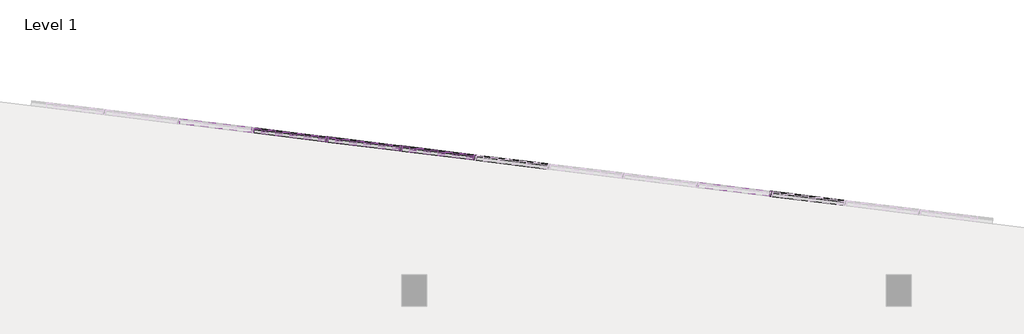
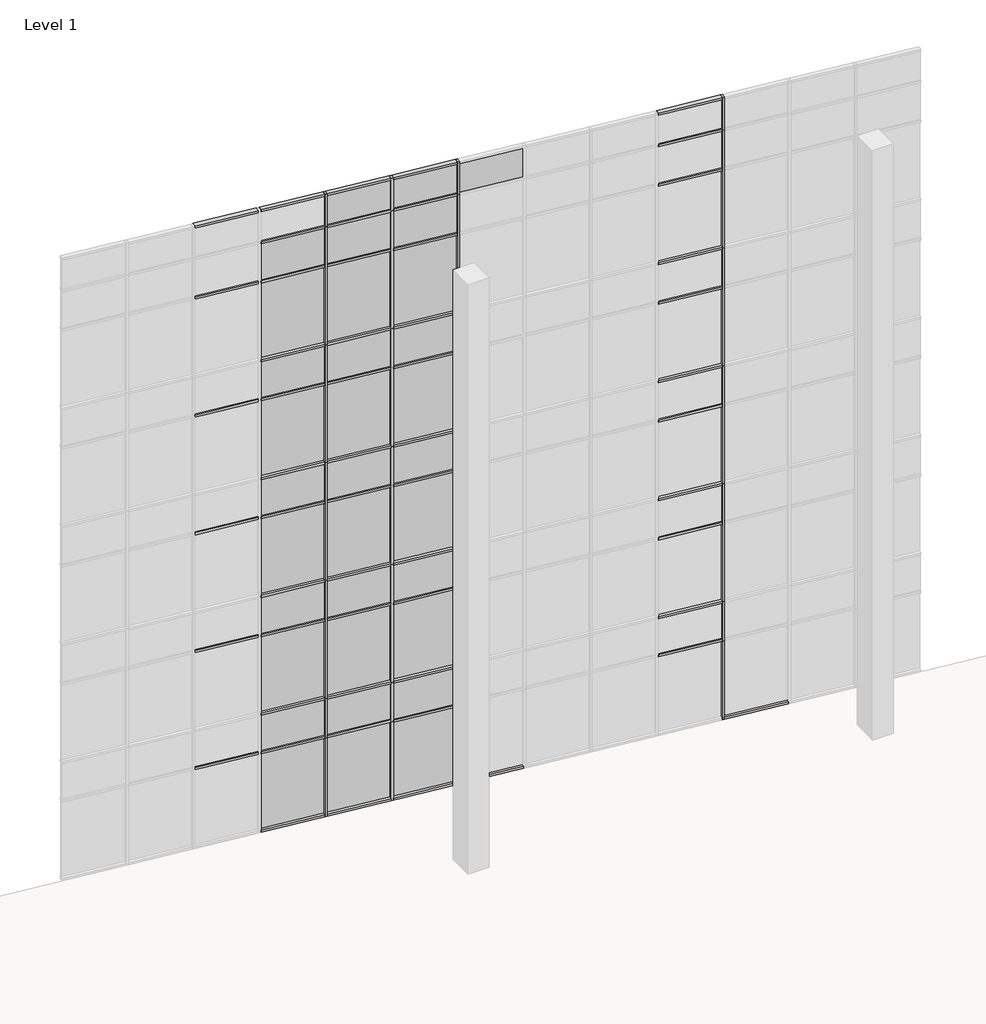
# One storey, part 18 of 23: 83 members, 33 plates.
"""IFC4 building model written with IfcOpenShell, lengths in millimetres."""

from ifc_helpers import new_model, si_unit, origin, place, context, project, spatial, transform, mapped, element, save
from components import member_2b49869a, member_f92b8aa2, member_810865a4, member_f0fea5a5, member_6d5c3e5e, member_9764dd38, system_panel_glazed_14c75400, system_panel_glazed_5b519c5a, system_panel_solid_5dfe6f83, system_panel_solid_e25e2004, system_panel_solid_b7551183

model = new_model("IFC4")

# Units and contexts
model_context = context("Model", 3, world=origin())
ifc_project = project(units=[si_unit("LENGTHUNIT", "METRE", prefix="MILLI")], contexts=[model_context])

# Site, building, storey
site = spatial("IfcSite", under=ifc_project)
building = spatial("IfcBuilding", under=site)
storey = spatial("IfcBuildingStorey", under=building, Name="Level 1", Elevation=0.0)

# Members
placement = place(None, origin())
member_shape = member_2b49869a(model_context)
element("IfcMember", 1, ObjectType="Rectangular Mullion : 2.5\" x 5\" rectangular", at=placement, inside=storey, context=model_context, shape_type="MappedRepresentation", body=[
    mapped(member_shape, transform((-11146.0047635, 13239.9184774, 2438.4), x_axis=(0.9925461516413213, -0.12186934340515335, 0.0), y_axis=(-0.12186934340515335, -0.9925461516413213, 0.0), z_axis=(0.0, 0.0, -1.0))),
])
element("IfcMember", 2, ObjectType="Rectangular Mullion : 2.5\" x 5\" rectangular", at=placement, inside=storey, context=model_context, shape_type="MappedRepresentation", body=[
    mapped(member_shape, transform((-254.9943507, 11902.6705461, 2438.4), x_axis=(0.9925461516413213, -0.12186934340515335, 0.0), y_axis=(-0.12186934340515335, -0.9925461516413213, 0.0), z_axis=(0.0, 0.0, -1.0))),
])
member_2_shape = member_f92b8aa2(model_context)
element("IfcMember", 3, ObjectType="Rectangular Mullion : 2.5\" x 5\" rectangular", at=placement, inside=storey, context=model_context, shape_type="MappedRepresentation", body=[
    mapped(member_2_shape, transform((-7515.6679592, 12794.169167, 18288.0), x_axis=(0.9925461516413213, -0.12186934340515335, 0.0), y_axis=(-0.12186934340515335, -0.9925461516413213, 0.0), z_axis=(0.0, 0.0, -1.0))),
])
element("IfcMember", 4, ObjectType="Rectangular Mullion : 2.5\" x 5\" rectangular", at=placement, inside=storey, context=model_context, shape_type="MappedRepresentation", body=[
    mapped(member_2_shape, transform((-9330.8363614, 13017.0438222, 18288.0), x_axis=(0.9925461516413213, -0.12186934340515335, 0.0), y_axis=(-0.12186934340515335, -0.9925461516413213, 0.0), z_axis=(0.0, 0.0, -1.0))),
])
element("IfcMember", 5, ObjectType="Rectangular Mullion : 2.5\" x 5\" rectangular", at=placement, inside=storey, context=model_context, shape_type="MappedRepresentation", body=[
    mapped(member_2_shape, transform((-11146.0047635, 13239.9184774, 18288.0), x_axis=(0.9925461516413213, -0.12186934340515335, 0.0), y_axis=(-0.12186934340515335, -0.9925461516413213, 0.0), z_axis=(0.0, 0.0, -1.0))),
])
element("IfcMember", 6, ObjectType="Rectangular Mullion : 2.5\" x 5\" rectangular", at=placement, inside=storey, context=model_context, shape_type="MappedRepresentation", body=[
    mapped(member_2_shape, transform((-254.9943507, 11902.6705461, 18288.0), x_axis=(0.9925461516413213, -0.12186934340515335, 0.0), y_axis=(-0.12186934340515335, -0.9925461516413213, 0.0), z_axis=(0.0, 0.0, -1.0))),
])
member_3_shape = member_810865a4(model_context)
element("IfcMember", 7, ObjectType="Rectangular Mullion : 2.5\" x 5\" rectangular", at=placement, inside=storey, context=model_context, shape_type="MappedRepresentation", body=[
    mapped(member_3_shape, transform((-11146.0047635, 13239.9184774, 3657.6), x_axis=(0.9925461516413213, -0.12186934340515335, 0.0), y_axis=(-0.12186934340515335, -0.9925461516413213, 0.0), z_axis=(0.0, 0.0, -1.0))),
])
element("IfcMember", 8, ObjectType="Rectangular Mullion : 2.5\" x 5\" rectangular", at=placement, inside=storey, context=model_context, shape_type="MappedRepresentation", body=[
    mapped(member_3_shape, transform((-7515.6679592, 12794.169167, 14630.4), x_axis=(0.9925461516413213, -0.12186934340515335, 0.0), y_axis=(-0.12186934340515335, -0.9925461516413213, 0.0), z_axis=(0.0, 0.0, -1.0))),
])
element("IfcMember", 9, ObjectType="Rectangular Mullion : 2.5\" x 5\" rectangular", at=placement, inside=storey, context=model_context, shape_type="MappedRepresentation", body=[
    mapped(member_3_shape, transform((-7515.6679592, 12794.169167, 10972.8), x_axis=(0.9925461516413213, -0.12186934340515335, 0.0), y_axis=(-0.12186934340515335, -0.9925461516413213, 0.0), z_axis=(0.0, 0.0, -1.0))),
])
element("IfcMember", 10, ObjectType="Rectangular Mullion : 2.5\" x 5\" rectangular", at=placement, inside=storey, context=model_context, shape_type="MappedRepresentation", body=[
    mapped(member_3_shape, transform((-7515.6679592, 12794.169167, 7315.2), x_axis=(0.9925461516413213, -0.12186934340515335, 0.0), y_axis=(-0.12186934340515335, -0.9925461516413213, 0.0), z_axis=(0.0, 0.0, -1.0))),
])
element("IfcMember", 11, ObjectType="Rectangular Mullion : 2.5\" x 5\" rectangular", at=placement, inside=storey, context=model_context, shape_type="MappedRepresentation", body=[
    mapped(member_3_shape, transform((-7515.6679592, 12794.169167, 3657.6), x_axis=(0.9925461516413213, -0.12186934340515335, 0.0), y_axis=(-0.12186934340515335, -0.9925461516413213, 0.0), z_axis=(0.0, 0.0, -1.0))),
])
element("IfcMember", 12, ObjectType="Rectangular Mullion : 2.5\" x 5\" rectangular", at=placement, inside=storey, context=model_context, shape_type="MappedRepresentation", body=[
    mapped(member_3_shape, transform((-9330.8363614, 13017.0438222, 14630.4), x_axis=(0.9925461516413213, -0.12186934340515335, 0.0), y_axis=(-0.12186934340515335, -0.9925461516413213, 0.0), z_axis=(0.0, 0.0, -1.0))),
])
element("IfcMember", 13, ObjectType="Rectangular Mullion : 2.5\" x 5\" rectangular", at=placement, inside=storey, context=model_context, shape_type="MappedRepresentation", body=[
    mapped(member_3_shape, transform((-9330.8363614, 13017.0438222, 10972.8), x_axis=(0.9925461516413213, -0.12186934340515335, 0.0), y_axis=(-0.12186934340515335, -0.9925461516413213, 0.0), z_axis=(0.0, 0.0, -1.0))),
])
element("IfcMember", 14, ObjectType="Rectangular Mullion : 2.5\" x 5\" rectangular", at=placement, inside=storey, context=model_context, shape_type="MappedRepresentation", body=[
    mapped(member_3_shape, transform((-9330.8363614, 13017.0438222, 7315.2), x_axis=(0.9925461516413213, -0.12186934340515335, 0.0), y_axis=(-0.12186934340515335, -0.9925461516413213, 0.0), z_axis=(0.0, 0.0, -1.0))),
])
element("IfcMember", 15, ObjectType="Rectangular Mullion : 2.5\" x 5\" rectangular", at=placement, inside=storey, context=model_context, shape_type="MappedRepresentation", body=[
    mapped(member_3_shape, transform((-9330.8363614, 13017.0438222, 3657.6), x_axis=(0.9925461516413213, -0.12186934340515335, 0.0), y_axis=(-0.12186934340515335, -0.9925461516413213, 0.0), z_axis=(0.0, 0.0, -1.0))),
])
element("IfcMember", 16, ObjectType="Rectangular Mullion : 2.5\" x 5\" rectangular", at=placement, inside=storey, context=model_context, shape_type="MappedRepresentation", body=[
    mapped(member_3_shape, transform((-11146.0047635, 13239.9184774, 14630.4), x_axis=(0.9925461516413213, -0.12186934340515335, 0.0), y_axis=(-0.12186934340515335, -0.9925461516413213, 0.0), z_axis=(0.0, 0.0, -1.0))),
])
element("IfcMember", 17, ObjectType="Rectangular Mullion : 2.5\" x 5\" rectangular", at=placement, inside=storey, context=model_context, shape_type="MappedRepresentation", body=[
    mapped(member_3_shape, transform((-11146.0047635, 13239.9184774, 10972.8), x_axis=(0.9925461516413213, -0.12186934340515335, 0.0), y_axis=(-0.12186934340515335, -0.9925461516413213, 0.0), z_axis=(0.0, 0.0, -1.0))),
])
element("IfcMember", 18, ObjectType="Rectangular Mullion : 2.5\" x 5\" rectangular", at=placement, inside=storey, context=model_context, shape_type="MappedRepresentation", body=[
    mapped(member_3_shape, transform((-11146.0047635, 13239.9184774, 7315.2), x_axis=(0.9925461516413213, -0.12186934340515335, 0.0), y_axis=(-0.12186934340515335, -0.9925461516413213, 0.0), z_axis=(0.0, 0.0, -1.0))),
])
element("IfcMember", 19, ObjectType="Rectangular Mullion : 2.5\" x 5\" rectangular", at=placement, inside=storey, context=model_context, shape_type="MappedRepresentation", body=[
    mapped(member_3_shape, transform((-254.9943507, 11902.6705461, 14630.4), x_axis=(0.9925461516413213, -0.12186934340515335, 0.0), y_axis=(-0.12186934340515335, -0.9925461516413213, 0.0), z_axis=(0.0, 0.0, -1.0))),
])
element("IfcMember", 20, ObjectType="Rectangular Mullion : 2.5\" x 5\" rectangular", at=placement, inside=storey, context=model_context, shape_type="MappedRepresentation", body=[
    mapped(member_3_shape, transform((-254.9943507, 11902.6705461, 10972.8), x_axis=(0.9925461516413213, -0.12186934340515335, 0.0), y_axis=(-0.12186934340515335, -0.9925461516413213, 0.0), z_axis=(0.0, 0.0, -1.0))),
])
element("IfcMember", 21, ObjectType="Rectangular Mullion : 2.5\" x 5\" rectangular", at=placement, inside=storey, context=model_context, shape_type="MappedRepresentation", body=[
    mapped(member_3_shape, transform((-254.9943507, 11902.6705461, 7315.2), x_axis=(0.9925461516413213, -0.12186934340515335, 0.0), y_axis=(-0.12186934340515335, -0.9925461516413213, 0.0), z_axis=(0.0, 0.0, -1.0))),
])
element("IfcMember", 22, ObjectType="Rectangular Mullion : 2.5\" x 5\" rectangular", at=placement, inside=storey, context=model_context, shape_type="MappedRepresentation", body=[
    mapped(member_3_shape, transform((-254.9943507, 11902.6705461, 3657.6), x_axis=(0.9925461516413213, -0.12186934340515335, 0.0), y_axis=(-0.12186934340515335, -0.9925461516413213, 0.0), z_axis=(0.0, 0.0, -1.0))),
])
member_4_shape = member_f0fea5a5(model_context)
element("IfcMember", 23, ObjectType="Rectangular Mullion : 2.5\" x 5\" rectangular", at=placement, inside=storey, context=model_context, shape_type="MappedRepresentation", body=[
    mapped(member_4_shape, transform((-11146.0047635, 13239.9184774, 0.0), x_axis=(0.9925461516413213, -0.12186934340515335, 0.0), y_axis=(-0.12186934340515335, -0.9925461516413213, 0.0), z_axis=(0.0, 0.0, -1.0))),
])
element("IfcMember", 24, ObjectType="Rectangular Mullion : 2.5\" x 5\" rectangular", at=placement, inside=storey, context=model_context, shape_type="MappedRepresentation", body=[
    mapped(member_4_shape, transform((-254.9943507, 11902.6705461, 0.0), x_axis=(0.9925461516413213, -0.12186934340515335, 0.0), y_axis=(-0.12186934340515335, -0.9925461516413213, 0.0), z_axis=(0.0, 0.0, -1.0))),
])
element("IfcMember", 25, ObjectType="Rectangular Mullion : 2.5\" x 5\" rectangular", at=placement, inside=storey, context=model_context, shape_type="MappedRepresentation", body=[
    mapped(member_4_shape, transform((-7515.6679592, 12794.169167, 0.0), x_axis=(0.9925461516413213, -0.12186934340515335, 0.0), y_axis=(-0.12186934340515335, -0.9925461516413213, 0.0), z_axis=(0.0, 0.0, -1.0))),
])
element("IfcMember", 26, ObjectType="Rectangular Mullion : 2.5\" x 5\" rectangular", at=placement, inside=storey, context=model_context, shape_type="MappedRepresentation", body=[
    mapped(member_4_shape, transform((-9330.8363614, 13017.0438222, 0.0), x_axis=(0.9925461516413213, -0.12186934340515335, 0.0), y_axis=(-0.12186934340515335, -0.9925461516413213, 0.0), z_axis=(0.0, 0.0, -1.0))),
])
element("IfcMember", 27, ObjectType="Rectangular Mullion : 2.5\" x 5\" rectangular", at=placement, inside=storey, context=model_context, shape_type="MappedRepresentation", body=[
    mapped(member_shape, transform((-7515.6679592, 12794.169167, 2438.4), x_axis=(0.9925461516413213, -0.12186934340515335, 0.0), y_axis=(-0.12186934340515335, -0.9925461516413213, 0.0), z_axis=(0.0, 0.0, -1.0))),
])
element("IfcMember", 28, ObjectType="Rectangular Mullion : 2.5\" x 5\" rectangular", at=placement, inside=storey, context=model_context, shape_type="MappedRepresentation", body=[
    mapped(member_shape, transform((-9330.8363614, 13017.0438222, 2438.4), x_axis=(0.9925461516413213, -0.12186934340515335, 0.0), y_axis=(-0.12186934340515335, -0.9925461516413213, 0.0), z_axis=(0.0, 0.0, -1.0))),
])
member_5_shape = member_6d5c3e5e(model_context)
element("IfcMember", 29, ObjectType="Rectangular Mullion : 2.5\" x 5\" rectangular", at=placement, inside=storey, context=model_context, shape_type="MappedRepresentation", body=[
    mapped(member_5_shape, transform((-9362.3497017, 13020.9131738, 19304.0), x_axis=(0.0, 0.0, 1.0), y_axis=(-0.12186934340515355, -0.9925461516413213, 0.0), z_axis=(0.9925461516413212, -0.12186934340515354, 0.0))),
])
element("IfcMember", 30, ObjectType="Rectangular Mullion : 2.5\" x 5\" rectangular", at=placement, inside=storey, context=model_context, shape_type="MappedRepresentation", body=[
    mapped(member_5_shape, transform((-11177.5181038, 13243.7878291, 19304.0), x_axis=(0.0, 0.0, 1.0), y_axis=(-0.12186934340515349, -0.9925461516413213, 0.0), z_axis=(0.9925461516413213, -0.12186934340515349, 0.0))),
])
element("IfcMember", 31, ObjectType="Rectangular Mullion : 2.5\" x 5\" rectangular", at=placement, inside=storey, context=model_context, shape_type="MappedRepresentation", body=[
    mapped(member_5_shape, transform((-12992.6865059, 13466.6624843, 19304.0), x_axis=(0.0, 0.0, 1.0), y_axis=(-0.12186934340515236, -0.9925461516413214, 0.0), z_axis=(0.9925461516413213, -0.12186934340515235, 0.0))),
])
element("IfcMember", 32, ObjectType="Rectangular Mullion : 2.5\" x 5\" rectangular", at=placement, inside=storey, context=model_context, shape_type="MappedRepresentation", body=[
    mapped(member_5_shape, transform((-286.5076911, 11906.5398977, 19304.0), x_axis=(0.0, 0.0, 1.0), y_axis=(-0.12186934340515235, -0.9925461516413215, 0.0), z_axis=(0.9925461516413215, -0.12186934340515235, 0.0))),
])
element("IfcMember", 33, ObjectType="Rectangular Mullion : 2.5\" x 5\" rectangular", at=placement, inside=storey, context=model_context, shape_type="MappedRepresentation", body=[
    mapped(member_5_shape, transform((-7547.1812995, 12798.0385186, 19304.0), x_axis=(0.0, 0.0, 1.0), y_axis=(-0.12186934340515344, -0.9925461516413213, 0.0), z_axis=(0.9925461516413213, -0.12186934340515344, 0.0))),
])
member_6_shape = member_9764dd38(model_context)
element("IfcMember", 34, ObjectType="Rectangular Mullion : 2.5\" x 5\" rectangular", at=placement, inside=storey, context=model_context, shape_type="MappedRepresentation", body=[
    mapped(member_6_shape, transform((-286.5076911, 11906.5398977, 17068.8), x_axis=(0.0, 0.0, 1.0), y_axis=(-0.12186934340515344, -0.9925461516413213, 0.0), z_axis=(0.9925461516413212, -0.12186934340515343, 0.0))),
])
element("IfcMember", 35, ObjectType="Rectangular Mullion : 2.5\" x 5\" rectangular", at=placement, inside=storey, context=model_context, shape_type="MappedRepresentation", body=[
    mapped(member_6_shape, transform((-7547.1812995, 12798.0385186, 17068.8), x_axis=(0.0, 0.0, 1.0), y_axis=(-0.12186934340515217, -0.9925461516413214, 0.0), z_axis=(0.9925461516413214, -0.12186934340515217, 0.0))),
])
element("IfcMember", 36, ObjectType="Rectangular Mullion : 2.5\" x 5\" rectangular", at=placement, inside=storey, context=model_context, shape_type="MappedRepresentation", body=[
    mapped(member_6_shape, transform((-9362.3497017, 13020.9131738, 17068.8), x_axis=(0.0, 0.0, 1.0), y_axis=(-0.12186934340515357, -0.9925461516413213, 0.0), z_axis=(0.9925461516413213, -0.12186934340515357, 0.0))),
])
element("IfcMember", 37, ObjectType="Rectangular Mullion : 2.5\" x 5\" rectangular", at=placement, inside=storey, context=model_context, shape_type="MappedRepresentation", body=[
    mapped(member_6_shape, transform((-11177.5181038, 13243.7878291, 17068.8), x_axis=(0.0, 0.0, 1.0), y_axis=(-0.12186934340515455, -0.9925461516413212, 0.0), z_axis=(0.9925461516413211, -0.12186934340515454, 0.0))),
])
element("IfcMember", 38, ObjectType="Rectangular Mullion : 2.5\" x 5\" rectangular", at=placement, inside=storey, context=model_context, shape_type="MappedRepresentation", body=[
    mapped(member_6_shape, transform((-12992.6865059, 13466.6624843, 17068.8), x_axis=(0.0, 0.0, 1.0), y_axis=(-0.12186934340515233, -0.9925461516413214, 0.0), z_axis=(0.9925461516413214, -0.12186934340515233, 0.0))),
])
element("IfcMember", 39, ObjectType="Rectangular Mullion : 2.5\" x 5\" rectangular", at=placement, inside=storey, context=model_context, shape_type="MappedRepresentation", body=[
    mapped(member_6_shape, transform((-286.5076911, 11906.5398977, 13411.2), x_axis=(0.0, 0.0, 1.0), y_axis=(-0.12186934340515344, -0.9925461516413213, 0.0), z_axis=(0.9925461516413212, -0.12186934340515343, 0.0))),
])
element("IfcMember", 40, ObjectType="Rectangular Mullion : 2.5\" x 5\" rectangular", at=placement, inside=storey, context=model_context, shape_type="MappedRepresentation", body=[
    mapped(member_6_shape, transform((-7547.1812995, 12798.0385186, 13411.2), x_axis=(0.0, 0.0, 1.0), y_axis=(-0.12186934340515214, -0.9925461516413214, 0.0), z_axis=(0.9925461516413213, -0.12186934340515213, 0.0))),
])
element("IfcMember", 41, ObjectType="Rectangular Mullion : 2.5\" x 5\" rectangular", at=placement, inside=storey, context=model_context, shape_type="MappedRepresentation", body=[
    mapped(member_6_shape, transform((-9362.3497017, 13020.9131738, 13411.2), x_axis=(0.0, 0.0, 1.0), y_axis=(-0.12186934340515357, -0.9925461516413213, 0.0), z_axis=(0.9925461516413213, -0.12186934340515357, 0.0))),
])
element("IfcMember", 42, ObjectType="Rectangular Mullion : 2.5\" x 5\" rectangular", at=placement, inside=storey, context=model_context, shape_type="MappedRepresentation", body=[
    mapped(member_6_shape, transform((-11177.5181038, 13243.7878291, 13411.2), x_axis=(0.0, 0.0, 1.0), y_axis=(-0.12186934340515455, -0.9925461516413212, 0.0), z_axis=(0.9925461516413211, -0.12186934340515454, 0.0))),
])
element("IfcMember", 43, ObjectType="Rectangular Mullion : 2.5\" x 5\" rectangular", at=placement, inside=storey, context=model_context, shape_type="MappedRepresentation", body=[
    mapped(member_6_shape, transform((-12992.6865059, 13466.6624843, 13411.2), x_axis=(0.0, 0.0, 1.0), y_axis=(-0.12186934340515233, -0.9925461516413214, 0.0), z_axis=(0.9925461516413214, -0.12186934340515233, 0.0))),
])
element("IfcMember", 44, ObjectType="Rectangular Mullion : 2.5\" x 5\" rectangular", at=placement, inside=storey, context=model_context, shape_type="MappedRepresentation", body=[
    mapped(member_6_shape, transform((-286.5076911, 11906.5398977, 9753.6), x_axis=(0.0, 0.0, 1.0), y_axis=(-0.12186934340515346, -0.9925461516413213, 0.0), z_axis=(0.9925461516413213, -0.12186934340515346, 0.0))),
])
element("IfcMember", 45, ObjectType="Rectangular Mullion : 2.5\" x 5\" rectangular", at=placement, inside=storey, context=model_context, shape_type="MappedRepresentation", body=[
    mapped(member_6_shape, transform((-7547.1812995, 12798.0385186, 9753.6), x_axis=(0.0, 0.0, 1.0), y_axis=(-0.12186934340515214, -0.9925461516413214, 0.0), z_axis=(0.9925461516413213, -0.12186934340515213, 0.0))),
])
element("IfcMember", 46, ObjectType="Rectangular Mullion : 2.5\" x 5\" rectangular", at=placement, inside=storey, context=model_context, shape_type="MappedRepresentation", body=[
    mapped(member_6_shape, transform((-9362.3497017, 13020.9131738, 9753.6), x_axis=(0.0, 0.0, 1.0), y_axis=(-0.12186934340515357, -0.9925461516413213, 0.0), z_axis=(0.9925461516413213, -0.12186934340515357, 0.0))),
])
element("IfcMember", 47, ObjectType="Rectangular Mullion : 2.5\" x 5\" rectangular", at=placement, inside=storey, context=model_context, shape_type="MappedRepresentation", body=[
    mapped(member_6_shape, transform((-11177.5181038, 13243.7878291, 9753.6), x_axis=(0.0, 0.0, 1.0), y_axis=(-0.12186934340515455, -0.9925461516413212, 0.0), z_axis=(0.9925461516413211, -0.12186934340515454, 0.0))),
])
element("IfcMember", 48, ObjectType="Rectangular Mullion : 2.5\" x 5\" rectangular", at=placement, inside=storey, context=model_context, shape_type="MappedRepresentation", body=[
    mapped(member_6_shape, transform((-12992.6865059, 13466.6624843, 9753.6), x_axis=(0.0, 0.0, 1.0), y_axis=(-0.12186934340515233, -0.9925461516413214, 0.0), z_axis=(0.9925461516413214, -0.12186934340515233, 0.0))),
])
element("IfcMember", 49, ObjectType="Rectangular Mullion : 2.5\" x 5\" rectangular", at=placement, inside=storey, context=model_context, shape_type="MappedRepresentation", body=[
    mapped(member_6_shape, transform((-286.5076911, 11906.5398977, 6096.0), x_axis=(0.0, 0.0, 1.0), y_axis=(-0.12186934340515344, -0.9925461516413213, 0.0), z_axis=(0.9925461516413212, -0.12186934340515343, 0.0))),
])
element("IfcMember", 50, ObjectType="Rectangular Mullion : 2.5\" x 5\" rectangular", at=placement, inside=storey, context=model_context, shape_type="MappedRepresentation", body=[
    mapped(member_6_shape, transform((-7547.1812995, 12798.0385186, 6096.0), x_axis=(0.0, 0.0, 1.0), y_axis=(-0.12186934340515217, -0.9925461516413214, 0.0), z_axis=(0.9925461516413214, -0.12186934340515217, 0.0))),
])
element("IfcMember", 51, ObjectType="Rectangular Mullion : 2.5\" x 5\" rectangular", at=placement, inside=storey, context=model_context, shape_type="MappedRepresentation", body=[
    mapped(member_6_shape, transform((-9362.3497017, 13020.9131738, 6096.0), x_axis=(0.0, 0.0, 1.0), y_axis=(-0.12186934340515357, -0.9925461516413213, 0.0), z_axis=(0.9925461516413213, -0.12186934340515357, 0.0))),
])
element("IfcMember", 52, ObjectType="Rectangular Mullion : 2.5\" x 5\" rectangular", at=placement, inside=storey, context=model_context, shape_type="MappedRepresentation", body=[
    mapped(member_6_shape, transform((-11177.5181038, 13243.7878291, 6096.0), x_axis=(0.0, 0.0, 1.0), y_axis=(-0.12186934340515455, -0.9925461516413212, 0.0), z_axis=(0.9925461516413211, -0.12186934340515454, 0.0))),
])
element("IfcMember", 53, ObjectType="Rectangular Mullion : 2.5\" x 5\" rectangular", at=placement, inside=storey, context=model_context, shape_type="MappedRepresentation", body=[
    mapped(member_6_shape, transform((-12992.6865059, 13466.6624843, 6096.0), x_axis=(0.0, 0.0, 1.0), y_axis=(-0.12186934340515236, -0.9925461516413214, 0.0), z_axis=(0.9925461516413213, -0.12186934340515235, 0.0))),
])
element("IfcMember", 54, ObjectType="Rectangular Mullion : 2.5\" x 5\" rectangular", at=placement, inside=storey, context=model_context, shape_type="MappedRepresentation", body=[
    mapped(member_6_shape, transform((-286.5076911, 11906.5398977, 2470.15), x_axis=(0.0, 0.0, 1.0), y_axis=(-0.12186934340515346, -0.9925461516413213, 0.0), z_axis=(0.9925461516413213, -0.12186934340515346, 0.0))),
])
element("IfcMember", 55, ObjectType="Rectangular Mullion : 2.5\" x 5\" rectangular", at=placement, inside=storey, context=model_context, shape_type="MappedRepresentation", body=[
    mapped(member_6_shape, transform((-9362.3497017, 13020.9131738, 2470.15), x_axis=(0.0, 0.0, 1.0), y_axis=(-0.12186934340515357, -0.9925461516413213, 0.0), z_axis=(0.9925461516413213, -0.12186934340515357, 0.0))),
])
element("IfcMember", 56, ObjectType="Rectangular Mullion : 2.5\" x 5\" rectangular", at=placement, inside=storey, context=model_context, shape_type="MappedRepresentation", body=[
    mapped(member_6_shape, transform((-11177.5181038, 13243.7878291, 2470.15), x_axis=(0.0, 0.0, 1.0), y_axis=(-0.12186934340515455, -0.9925461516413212, 0.0), z_axis=(0.9925461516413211, -0.12186934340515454, 0.0))),
])
element("IfcMember", 57, ObjectType="Rectangular Mullion : 2.5\" x 5\" rectangular", at=placement, inside=storey, context=model_context, shape_type="MappedRepresentation", body=[
    mapped(member_6_shape, transform((-12992.6865059, 13466.6624843, 2470.15), x_axis=(0.0, 0.0, 1.0), y_axis=(-0.12186934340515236, -0.9925461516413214, 0.0), z_axis=(0.9925461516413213, -0.12186934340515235, 0.0))),
])
element("IfcMember", 58, ObjectType="Rectangular Mullion : 2.5\" x 5\" rectangular", at=placement, inside=storey, context=model_context, shape_type="MappedRepresentation", body=[
    mapped(member_5_shape, transform((-223.4810104, 11898.8011944, 0.0), x_axis=(0.0, 0.0, -1.0), y_axis=(-0.12186934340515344, -0.9925461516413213, 0.0), z_axis=(-0.9925461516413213, 0.12186934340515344, 0.0))),
])
element("IfcMember", 59, ObjectType="Rectangular Mullion : 2.5\" x 5\" rectangular", at=placement, inside=storey, context=model_context, shape_type="MappedRepresentation", body=[
    mapped(member_5_shape, transform((-7484.1546189, 12790.2998153, 0.0), x_axis=(0.0, 0.0, -1.0), y_axis=(-0.12186934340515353, -0.9925461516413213, 0.0), z_axis=(-0.9925461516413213, 0.12186934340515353, 0.0))),
])
element("IfcMember", 60, ObjectType="Rectangular Mullion : 2.5\" x 5\" rectangular", at=placement, inside=storey, context=model_context, shape_type="MappedRepresentation", body=[
    mapped(member_5_shape, transform((-11114.4914232, 13236.0491257, 0.0), x_axis=(0.0, 0.0, -1.0), y_axis=(-0.12186934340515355, -0.9925461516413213, 0.0), z_axis=(-0.9925461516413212, 0.12186934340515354, 0.0))),
])
element("IfcMember", 61, ObjectType="Rectangular Mullion : 2.5\" x 5\" rectangular", at=placement, inside=storey, context=model_context, shape_type="MappedRepresentation", body=[
    mapped(member_5_shape, transform((-12929.6598253, 13458.923781, 0.0), x_axis=(0.0, 0.0, -1.0), y_axis=(-0.12186934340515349, -0.9925461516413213, 0.0), z_axis=(-0.9925461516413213, 0.12186934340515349, 0.0))),
])
element("IfcMember", 62, ObjectType="Rectangular Mullion : 2.5\" x 5\" rectangular", at=placement, inside=storey, context=model_context, shape_type="MappedRepresentation", body=[
    mapped(member_5_shape, transform((-9299.323021, 13013.1744705, 0.0), x_axis=(0.0, 0.0, -1.0), y_axis=(-0.12186934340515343, -0.9925461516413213, 0.0), z_axis=(-0.9925461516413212, 0.12186934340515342, 0.0))),
])
element("IfcMember", 63, ObjectType="Rectangular Mullion : 2.5\" x 5\" rectangular", at=placement, inside=storey, context=model_context, shape_type="MappedRepresentation", body=[
    mapped(member_6_shape, transform((-286.5076911, 11906.5398977, 3657.6), x_axis=(0.0, 0.0, 1.0), y_axis=(-0.12186934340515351, -0.9925461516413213, 0.0), z_axis=(0.9925461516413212, -0.1218693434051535, 0.0))),
])
element("IfcMember", 64, ObjectType="Rectangular Mullion : 2.5\" x 5\" rectangular", at=placement, inside=storey, context=model_context, shape_type="MappedRepresentation", body=[
    mapped(member_6_shape, transform((-7547.1812995, 12798.0385186, 3657.6), x_axis=(0.0, 0.0, 1.0), y_axis=(-0.12186934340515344, -0.9925461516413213, 0.0), z_axis=(0.9925461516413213, -0.12186934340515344, 0.0))),
])
element("IfcMember", 65, ObjectType="Rectangular Mullion : 2.5\" x 5\" rectangular", at=placement, inside=storey, context=model_context, shape_type="MappedRepresentation", body=[
    mapped(member_6_shape, transform((-9362.3497017, 13020.9131738, 3657.6), x_axis=(0.0, 0.0, 1.0), y_axis=(-0.12186934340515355, -0.9925461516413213, 0.0), z_axis=(0.9925461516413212, -0.12186934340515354, 0.0))),
])
element("IfcMember", 66, ObjectType="Rectangular Mullion : 2.5\" x 5\" rectangular", at=placement, inside=storey, context=model_context, shape_type="MappedRepresentation", body=[
    mapped(member_6_shape, transform((-11177.5181038, 13243.7878291, 3657.6), x_axis=(0.0, 0.0, 1.0), y_axis=(-0.12186934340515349, -0.9925461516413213, 0.0), z_axis=(0.9925461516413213, -0.12186934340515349, 0.0))),
])
element("IfcMember", 67, ObjectType="Rectangular Mullion : 2.5\" x 5\" rectangular", at=placement, inside=storey, context=model_context, shape_type="MappedRepresentation", body=[
    mapped(member_6_shape, transform((-286.5076911, 11906.5398977, 10972.8), x_axis=(0.0, 0.0, 1.0), y_axis=(-0.12186934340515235, -0.9925461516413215, 0.0), z_axis=(0.9925461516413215, -0.12186934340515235, 0.0))),
])
element("IfcMember", 68, ObjectType="Rectangular Mullion : 2.5\" x 5\" rectangular", at=placement, inside=storey, context=model_context, shape_type="MappedRepresentation", body=[
    mapped(member_6_shape, transform((-7547.1812995, 12798.0385186, 10972.8), x_axis=(0.0, 0.0, 1.0), y_axis=(-0.12186934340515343, -0.9925461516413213, 0.0), z_axis=(0.9925461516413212, -0.12186934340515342, 0.0))),
])
element("IfcMember", 69, ObjectType="Rectangular Mullion : 2.5\" x 5\" rectangular", at=placement, inside=storey, context=model_context, shape_type="MappedRepresentation", body=[
    mapped(member_6_shape, transform((-9362.3497017, 13020.9131738, 10972.8), x_axis=(0.0, 0.0, 1.0), y_axis=(-0.12186934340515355, -0.9925461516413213, 0.0), z_axis=(0.9925461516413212, -0.12186934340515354, 0.0))),
])
element("IfcMember", 70, ObjectType="Rectangular Mullion : 2.5\" x 5\" rectangular", at=placement, inside=storey, context=model_context, shape_type="MappedRepresentation", body=[
    mapped(member_6_shape, transform((-11177.5181038, 13243.7878291, 10972.8), x_axis=(0.0, 0.0, 1.0), y_axis=(-0.12186934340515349, -0.9925461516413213, 0.0), z_axis=(0.9925461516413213, -0.12186934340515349, 0.0))),
])
element("IfcMember", 71, ObjectType="Rectangular Mullion : 2.5\" x 5\" rectangular", at=placement, inside=storey, context=model_context, shape_type="MappedRepresentation", body=[
    mapped(member_6_shape, transform((-286.5076911, 11906.5398977, 14630.4), x_axis=(0.0, 0.0, 1.0), y_axis=(-0.12186934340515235, -0.9925461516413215, 0.0), z_axis=(0.9925461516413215, -0.12186934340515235, 0.0))),
])
element("IfcMember", 72, ObjectType="Rectangular Mullion : 2.5\" x 5\" rectangular", at=placement, inside=storey, context=model_context, shape_type="MappedRepresentation", body=[
    mapped(member_6_shape, transform((-7547.1812995, 12798.0385186, 14630.4), x_axis=(0.0, 0.0, 1.0), y_axis=(-0.12186934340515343, -0.9925461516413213, 0.0), z_axis=(0.9925461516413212, -0.12186934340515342, 0.0))),
])
element("IfcMember", 73, ObjectType="Rectangular Mullion : 2.5\" x 5\" rectangular", at=placement, inside=storey, context=model_context, shape_type="MappedRepresentation", body=[
    mapped(member_6_shape, transform((-9362.3497017, 13020.9131738, 14630.4), x_axis=(0.0, 0.0, 1.0), y_axis=(-0.12186934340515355, -0.9925461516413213, 0.0), z_axis=(0.9925461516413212, -0.12186934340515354, 0.0))),
])
element("IfcMember", 74, ObjectType="Rectangular Mullion : 2.5\" x 5\" rectangular", at=placement, inside=storey, context=model_context, shape_type="MappedRepresentation", body=[
    mapped(member_6_shape, transform((-11177.5181038, 13243.7878291, 14630.4), x_axis=(0.0, 0.0, 1.0), y_axis=(-0.12186934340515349, -0.9925461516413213, 0.0), z_axis=(0.9925461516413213, -0.12186934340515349, 0.0))),
])
element("IfcMember", 75, ObjectType="Rectangular Mullion : 2.5\" x 5\" rectangular", at=placement, inside=storey, context=model_context, shape_type="MappedRepresentation", body=[
    mapped(member_6_shape, transform((-286.5076911, 11906.5398977, 7315.2), x_axis=(0.0, 0.0, 1.0), y_axis=(-0.12186934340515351, -0.9925461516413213, 0.0), z_axis=(0.9925461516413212, -0.1218693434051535, 0.0))),
])
element("IfcMember", 76, ObjectType="Rectangular Mullion : 2.5\" x 5\" rectangular", at=placement, inside=storey, context=model_context, shape_type="MappedRepresentation", body=[
    mapped(member_6_shape, transform((-7547.1812995, 12798.0385186, 7315.2), x_axis=(0.0, 0.0, 1.0), y_axis=(-0.12186934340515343, -0.9925461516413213, 0.0), z_axis=(0.9925461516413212, -0.12186934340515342, 0.0))),
])
element("IfcMember", 77, ObjectType="Rectangular Mullion : 2.5\" x 5\" rectangular", at=placement, inside=storey, context=model_context, shape_type="MappedRepresentation", body=[
    mapped(member_6_shape, transform((-9362.3497017, 13020.9131738, 7315.2), x_axis=(0.0, 0.0, 1.0), y_axis=(-0.12186934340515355, -0.9925461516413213, 0.0), z_axis=(0.9925461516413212, -0.12186934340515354, 0.0))),
])
element("IfcMember", 78, ObjectType="Rectangular Mullion : 2.5\" x 5\" rectangular", at=placement, inside=storey, context=model_context, shape_type="MappedRepresentation", body=[
    mapped(member_6_shape, transform((-11177.5181038, 13243.7878291, 7315.2), x_axis=(0.0, 0.0, 1.0), y_axis=(-0.12186934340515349, -0.9925461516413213, 0.0), z_axis=(0.9925461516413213, -0.12186934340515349, 0.0))),
])
element("IfcMember", 79, ObjectType="Rectangular Mullion : 2.5\" x 5\" rectangular", at=placement, inside=storey, context=model_context, shape_type="MappedRepresentation", body=[
    mapped(member_6_shape, transform((-7547.1812995, 12798.0385186, 2438.4), x_axis=(0.0, 0.0, 1.0), y_axis=(-0.12186934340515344, -0.9925461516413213, 0.0), z_axis=(0.9925461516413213, -0.12186934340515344, 0.0))),
])
element("IfcMember", 80, ObjectType="Rectangular Mullion : 2.5\" x 5\" rectangular", at=placement, inside=storey, context=model_context, shape_type="MappedRepresentation", body=[
    mapped(member_6_shape, transform((-286.5076911, 11906.5398977, 18288.0), x_axis=(0.0, 0.0, 1.0), y_axis=(-0.12186934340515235, -0.9925461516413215, 0.0), z_axis=(0.9925461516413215, -0.12186934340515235, 0.0))),
])
element("IfcMember", 81, ObjectType="Rectangular Mullion : 2.5\" x 5\" rectangular", at=placement, inside=storey, context=model_context, shape_type="MappedRepresentation", body=[
    mapped(member_6_shape, transform((-7547.1812995, 12798.0385186, 18288.0), x_axis=(0.0, 0.0, 1.0), y_axis=(-0.12186934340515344, -0.9925461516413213, 0.0), z_axis=(0.9925461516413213, -0.12186934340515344, 0.0))),
])
element("IfcMember", 82, ObjectType="Rectangular Mullion : 2.5\" x 5\" rectangular", at=placement, inside=storey, context=model_context, shape_type="MappedRepresentation", body=[
    mapped(member_6_shape, transform((-9362.3497017, 13020.9131738, 18288.0), x_axis=(0.0, 0.0, 1.0), y_axis=(-0.12186934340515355, -0.9925461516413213, 0.0), z_axis=(0.9925461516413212, -0.12186934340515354, 0.0))),
])
element("IfcMember", 83, ObjectType="Rectangular Mullion : 2.5\" x 5\" rectangular", at=placement, inside=storey, context=model_context, shape_type="MappedRepresentation", body=[
    mapped(member_6_shape, transform((-11177.5181038, 13243.7878291, 18288.0), x_axis=(0.0, 0.0, 1.0), y_axis=(-0.12186934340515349, -0.9925461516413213, 0.0), z_axis=(0.9925461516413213, -0.12186934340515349, 0.0))),
])

# Plates
system_panel_glazed_shape = system_panel_glazed_14c75400(model_context)
element("IfcPlate", 84, ObjectType="System Panel : Glazed", at=placement, inside=storey, context=model_context, shape_type="MappedRepresentation", body=[
    mapped(system_panel_glazed_shape, transform((-8423.2521603, 12905.6064946, 14662.15), x_axis=(0.9925461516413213, -0.12186934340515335, 0.0), y_axis=(0.12186934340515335, 0.9925461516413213, 0.0), z_axis=(0.0, 0.0, 1.0))),
])
element("IfcPlate", 85, ObjectType="System Panel : Glazed", at=placement, inside=storey, context=model_context, shape_type="MappedRepresentation", body=[
    mapped(system_panel_glazed_shape, transform((-10238.4205624, 13128.4811498, 14662.15), x_axis=(0.9925461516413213, -0.12186934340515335, 0.0), y_axis=(0.12186934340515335, 0.9925461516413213, 0.0), z_axis=(0.0, 0.0, 1.0))),
])
element("IfcPlate", 86, ObjectType="System Panel : Glazed", at=placement, inside=storey, context=model_context, shape_type="MappedRepresentation", body=[
    mapped(system_panel_glazed_shape, transform((-12053.5889645, 13351.355805, 14662.15), x_axis=(0.9925461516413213, -0.12186934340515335, 0.0), y_axis=(0.12186934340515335, 0.9925461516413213, 0.0), z_axis=(0.0, 0.0, 1.0))),
])
element("IfcPlate", 87, ObjectType="System Panel : Glazed", at=placement, inside=storey, context=model_context, shape_type="MappedRepresentation", body=[
    mapped(system_panel_glazed_shape, transform((-8423.2521603, 12905.6064946, 11004.55), x_axis=(0.9925461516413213, -0.12186934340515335, 0.0), y_axis=(0.12186934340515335, 0.9925461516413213, 0.0), z_axis=(0.0, 0.0, 1.0))),
])
element("IfcPlate", 88, ObjectType="System Panel : Glazed", at=placement, inside=storey, context=model_context, shape_type="MappedRepresentation", body=[
    mapped(system_panel_glazed_shape, transform((-10238.4205624, 13128.4811498, 11004.55), x_axis=(0.9925461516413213, -0.12186934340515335, 0.0), y_axis=(0.12186934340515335, 0.9925461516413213, 0.0), z_axis=(0.0, 0.0, 1.0))),
])
element("IfcPlate", 89, ObjectType="System Panel : Glazed", at=placement, inside=storey, context=model_context, shape_type="MappedRepresentation", body=[
    mapped(system_panel_glazed_shape, transform((-12053.5889645, 13351.355805, 11004.55), x_axis=(0.9925461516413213, -0.12186934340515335, 0.0), y_axis=(0.12186934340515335, 0.9925461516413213, 0.0), z_axis=(0.0, 0.0, 1.0))),
])
element("IfcPlate", 90, ObjectType="System Panel : Glazed", at=placement, inside=storey, context=model_context, shape_type="MappedRepresentation", body=[
    mapped(system_panel_glazed_shape, transform((-8423.2521603, 12905.6064946, 7346.95), x_axis=(0.9925461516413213, -0.12186934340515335, 0.0), y_axis=(0.12186934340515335, 0.9925461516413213, 0.0), z_axis=(0.0, 0.0, 1.0))),
])
element("IfcPlate", 91, ObjectType="System Panel : Glazed", at=placement, inside=storey, context=model_context, shape_type="MappedRepresentation", body=[
    mapped(system_panel_glazed_shape, transform((-10238.4205624, 13128.4811498, 7346.95), x_axis=(0.9925461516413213, -0.12186934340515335, 0.0), y_axis=(0.12186934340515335, 0.9925461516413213, 0.0), z_axis=(0.0, 0.0, 1.0))),
])
element("IfcPlate", 92, ObjectType="System Panel : Glazed", at=placement, inside=storey, context=model_context, shape_type="MappedRepresentation", body=[
    mapped(system_panel_glazed_shape, transform((-12053.5889645, 13351.355805, 7346.95), x_axis=(0.9925461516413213, -0.12186934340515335, 0.0), y_axis=(0.12186934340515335, 0.9925461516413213, 0.0), z_axis=(0.0, 0.0, 1.0))),
])
element("IfcPlate", 93, ObjectType="System Panel : Glazed", at=placement, inside=storey, context=model_context, shape_type="MappedRepresentation", body=[
    mapped(system_panel_glazed_shape, transform((-8423.2521603, 12905.6064946, 3689.35), x_axis=(0.9925461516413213, -0.12186934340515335, 0.0), y_axis=(0.12186934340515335, 0.9925461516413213, 0.0), z_axis=(0.0, 0.0, 1.0))),
])
element("IfcPlate", 94, ObjectType="System Panel : Glazed", at=placement, inside=storey, context=model_context, shape_type="MappedRepresentation", body=[
    mapped(system_panel_glazed_shape, transform((-10238.4205624, 13128.4811498, 3689.35), x_axis=(0.9925461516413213, -0.12186934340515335, 0.0), y_axis=(0.12186934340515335, 0.9925461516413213, 0.0), z_axis=(0.0, 0.0, 1.0))),
])
element("IfcPlate", 95, ObjectType="System Panel : Glazed", at=placement, inside=storey, context=model_context, shape_type="MappedRepresentation", body=[
    mapped(system_panel_glazed_shape, transform((-12053.5889645, 13351.355805, 3689.35), x_axis=(0.9925461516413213, -0.12186934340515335, 0.0), y_axis=(0.12186934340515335, 0.9925461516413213, 0.0), z_axis=(0.0, 0.0, 1.0))),
])
element("IfcPlate", 96, ObjectType="System Panel : Glazed", at=placement, inside=storey, context=model_context, shape_type="MappedRepresentation", body=[
    mapped(system_panel_glazed_shape, transform((-10238.4205624, 13128.4811498, 63.5), x_axis=(0.9925461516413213, -0.12186934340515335, 0.0), y_axis=(0.12186934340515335, 0.9925461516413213, 0.0), z_axis=(0.0, 0.0, 1.0))),
])
element("IfcPlate", 97, ObjectType="System Panel : Glazed", at=placement, inside=storey, context=model_context, shape_type="MappedRepresentation", body=[
    mapped(system_panel_glazed_shape, transform((-12053.5889645, 13351.355805, 63.5), x_axis=(0.9925461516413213, -0.12186934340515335, 0.0), y_axis=(0.12186934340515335, 0.9925461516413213, 0.0), z_axis=(0.0, 0.0, 1.0))),
])
system_panel_glazed_2_shape = system_panel_glazed_5b519c5a(model_context)
element("IfcPlate", 98, ObjectType="System Panel : Glazed", at=placement, inside=storey, context=model_context, shape_type="MappedRepresentation", body=[
    mapped(system_panel_glazed_2_shape, transform((-8423.2521603, 12905.6064946, 63.5), x_axis=(0.9925461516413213, -0.12186934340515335, 0.0), y_axis=(0.12186934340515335, 0.9925461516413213, 0.0), z_axis=(0.0, 0.0, 1.0))),
])
system_panel_solid_shape = system_panel_solid_5dfe6f83(model_context)
element("IfcPlate", 99, ObjectType="System Panel : Solid", at=placement, inside=storey, context=model_context, shape_type="MappedRepresentation", body=[
    mapped(system_panel_solid_shape, transform((-10238.4205624, 13128.4811498, 18319.75), x_axis=(0.9925461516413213, -0.12186934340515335, 0.0), y_axis=(0.12186934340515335, 0.9925461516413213, 0.0), z_axis=(0.0, 0.0, 1.0))),
])
element("IfcPlate", 100, ObjectType="System Panel : Solid", at=placement, inside=storey, context=model_context, shape_type="MappedRepresentation", body=[
    mapped(system_panel_solid_shape, transform((-8423.2521603, 12905.6064946, 18319.75), x_axis=(0.9925461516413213, -0.12186934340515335, 0.0), y_axis=(0.12186934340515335, 0.9925461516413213, 0.0), z_axis=(0.0, 0.0, 1.0))),
])
element("IfcPlate", 101, ObjectType="System Panel : Solid", at=placement, inside=storey, context=model_context, shape_type="MappedRepresentation", body=[
    mapped(system_panel_solid_shape, transform((-6608.0837582, 12682.7318394, 18319.75), x_axis=(0.9925461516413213, -0.12186934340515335, 0.0), y_axis=(0.12186934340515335, 0.9925461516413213, 0.0), z_axis=(0.0, 0.0, 1.0))),
])
system_panel_solid_2_shape = system_panel_solid_e25e2004(model_context)
element("IfcPlate", 102, ObjectType="System Panel : Solid", at=placement, inside=storey, context=model_context, shape_type="MappedRepresentation", body=[
    mapped(system_panel_solid_2_shape, transform((-8423.2521603, 12905.6064946, 2470.15), x_axis=(0.9925461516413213, -0.12186934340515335, 0.0), y_axis=(0.12186934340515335, 0.9925461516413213, 0.0), z_axis=(0.0, 0.0, 1.0))),
])
element("IfcPlate", 103, ObjectType="System Panel : Solid", at=placement, inside=storey, context=model_context, shape_type="MappedRepresentation", body=[
    mapped(system_panel_solid_2_shape, transform((-8423.2521603, 12905.6064946, 17100.55), x_axis=(0.9925461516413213, -0.12186934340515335, 0.0), y_axis=(0.12186934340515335, 0.9925461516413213, 0.0), z_axis=(0.0, 0.0, 1.0))),
])
element("IfcPlate", 104, ObjectType="System Panel : Solid", at=placement, inside=storey, context=model_context, shape_type="MappedRepresentation", body=[
    mapped(system_panel_solid_2_shape, transform((-10238.4205624, 13128.4811498, 17100.55), x_axis=(0.9925461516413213, -0.12186934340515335, 0.0), y_axis=(0.12186934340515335, 0.9925461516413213, 0.0), z_axis=(0.0, 0.0, 1.0))),
])
element("IfcPlate", 105, ObjectType="System Panel : Solid", at=placement, inside=storey, context=model_context, shape_type="MappedRepresentation", body=[
    mapped(system_panel_solid_2_shape, transform((-12053.5889645, 13351.355805, 17100.55), x_axis=(0.9925461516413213, -0.12186934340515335, 0.0), y_axis=(0.12186934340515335, 0.9925461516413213, 0.0), z_axis=(0.0, 0.0, 1.0))),
])
element("IfcPlate", 106, ObjectType="System Panel : Solid", at=placement, inside=storey, context=model_context, shape_type="MappedRepresentation", body=[
    mapped(system_panel_solid_2_shape, transform((-8423.2521603, 12905.6064946, 13442.95), x_axis=(0.9925461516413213, -0.12186934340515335, 0.0), y_axis=(0.12186934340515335, 0.9925461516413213, 0.0), z_axis=(0.0, 0.0, 1.0))),
])
element("IfcPlate", 107, ObjectType="System Panel : Solid", at=placement, inside=storey, context=model_context, shape_type="MappedRepresentation", body=[
    mapped(system_panel_solid_2_shape, transform((-10238.4205624, 13128.4811498, 13442.95), x_axis=(0.9925461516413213, -0.12186934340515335, 0.0), y_axis=(0.12186934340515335, 0.9925461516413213, 0.0), z_axis=(0.0, 0.0, 1.0))),
])
element("IfcPlate", 108, ObjectType="System Panel : Solid", at=placement, inside=storey, context=model_context, shape_type="MappedRepresentation", body=[
    mapped(system_panel_solid_2_shape, transform((-12053.5889645, 13351.355805, 13442.95), x_axis=(0.9925461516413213, -0.12186934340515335, 0.0), y_axis=(0.12186934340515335, 0.9925461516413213, 0.0), z_axis=(0.0, 0.0, 1.0))),
])
element("IfcPlate", 109, ObjectType="System Panel : Solid", at=placement, inside=storey, context=model_context, shape_type="MappedRepresentation", body=[
    mapped(system_panel_solid_2_shape, transform((-8423.2521603, 12905.6064946, 9785.35), x_axis=(0.9925461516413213, -0.12186934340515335, 0.0), y_axis=(0.12186934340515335, 0.9925461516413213, 0.0), z_axis=(0.0, 0.0, 1.0))),
])
element("IfcPlate", 110, ObjectType="System Panel : Solid", at=placement, inside=storey, context=model_context, shape_type="MappedRepresentation", body=[
    mapped(system_panel_solid_2_shape, transform((-10238.4205624, 13128.4811498, 9785.35), x_axis=(0.9925461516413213, -0.12186934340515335, 0.0), y_axis=(0.12186934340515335, 0.9925461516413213, 0.0), z_axis=(0.0, 0.0, 1.0))),
])
element("IfcPlate", 111, ObjectType="System Panel : Solid", at=placement, inside=storey, context=model_context, shape_type="MappedRepresentation", body=[
    mapped(system_panel_solid_2_shape, transform((-12053.5889645, 13351.355805, 9785.35), x_axis=(0.9925461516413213, -0.12186934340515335, 0.0), y_axis=(0.12186934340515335, 0.9925461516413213, 0.0), z_axis=(0.0, 0.0, 1.0))),
])
element("IfcPlate", 112, ObjectType="System Panel : Solid", at=placement, inside=storey, context=model_context, shape_type="MappedRepresentation", body=[
    mapped(system_panel_solid_2_shape, transform((-8423.2521603, 12905.6064946, 6127.75), x_axis=(0.9925461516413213, -0.12186934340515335, 0.0), y_axis=(0.12186934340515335, 0.9925461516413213, 0.0), z_axis=(0.0, 0.0, 1.0))),
])
element("IfcPlate", 113, ObjectType="System Panel : Solid", at=placement, inside=storey, context=model_context, shape_type="MappedRepresentation", body=[
    mapped(system_panel_solid_2_shape, transform((-10238.4205624, 13128.4811498, 6127.75), x_axis=(0.9925461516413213, -0.12186934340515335, 0.0), y_axis=(0.12186934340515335, 0.9925461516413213, 0.0), z_axis=(0.0, 0.0, 1.0))),
])
element("IfcPlate", 114, ObjectType="System Panel : Solid", at=placement, inside=storey, context=model_context, shape_type="MappedRepresentation", body=[
    mapped(system_panel_solid_2_shape, transform((-12053.5889645, 13351.355805, 6127.75), x_axis=(0.9925461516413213, -0.12186934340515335, 0.0), y_axis=(0.12186934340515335, 0.9925461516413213, 0.0), z_axis=(0.0, 0.0, 1.0))),
])
system_panel_solid_3_shape = system_panel_solid_b7551183(model_context)
element("IfcPlate", 115, ObjectType="System Panel : Solid", at=placement, inside=storey, context=model_context, shape_type="MappedRepresentation", body=[
    mapped(system_panel_solid_3_shape, transform((-10238.4205624, 13128.4811498, 2501.9), x_axis=(0.9925461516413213, -0.12186934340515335, 0.0), y_axis=(0.12186934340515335, 0.9925461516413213, 0.0), z_axis=(0.0, 0.0, 1.0))),
])
element("IfcPlate", 116, ObjectType="System Panel : Solid", at=placement, inside=storey, context=model_context, shape_type="MappedRepresentation", body=[
    mapped(system_panel_solid_3_shape, transform((-12053.5889645, 13351.355805, 2501.9), x_axis=(0.9925461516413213, -0.12186934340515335, 0.0), y_axis=(0.12186934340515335, 0.9925461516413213, 0.0), z_axis=(0.0, 0.0, 1.0))),
])

save(model, "model.ifc")
